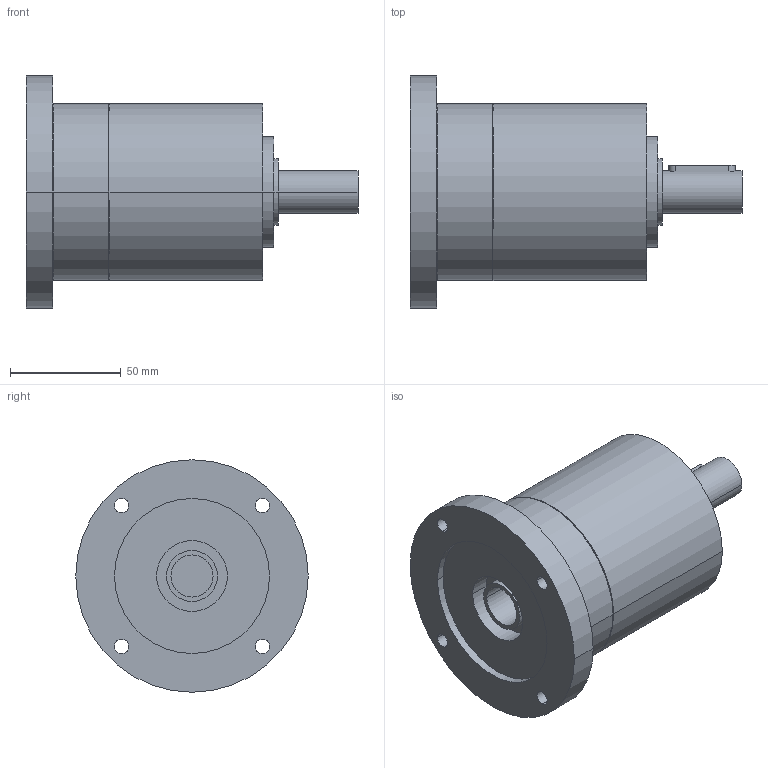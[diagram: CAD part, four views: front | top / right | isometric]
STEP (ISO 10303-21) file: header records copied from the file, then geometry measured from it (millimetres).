
FILE_DESCRIPTION(('CoCreate Modeling STEP Export'),'2;1');
FILE_NAME('GPR100_ig-3-4-5-6_19_B14_19_P12.stp','2014-08-26T10:08:40',(''),(''),'CoCreate Modeling STEP processor for AP214 (Solid Model)','CoCreate Modeling 16.00C 25-Feb-2009 (C) Parametric Technology GmbH','');
FILE_SCHEMA(('AUTOMOTIVE_DESIGN { 1 0 10303 214 1 1 1 1 }'));
Length unit declared in the file: millimetre
Products named in the file (2): GPR100_ig-3-4-5-6_19_B14_19_P12
Assembly tree (1 placements, depth 2):
  GPR100_ig-3-4-5-6_19_B14_19_P12
    GPR100_ig-3-4-5-6_19_B14_19_P12
Bounding box: 150 x 105 x 105 mm (x, y, z)
Volume: 570225.6 mm3; surface area: 55479.5 mm2
Topology: 1 solids, 1 shells, 76 faces, 205 edges, 147 vertices
Faces by surface type: cylinder 48, plane 22, cone 6
Entity records: 2037 total; most frequent: ORIENTED_EDGE 406, CARTESIAN_POINT 372, DIRECTION 262, EDGE_CURVE 203, VERTEX_POINT 147, EDGE_LOOP 102, AXIS2_PLACEMENT_3D 101, FACE_OUTER_BOUND 76
